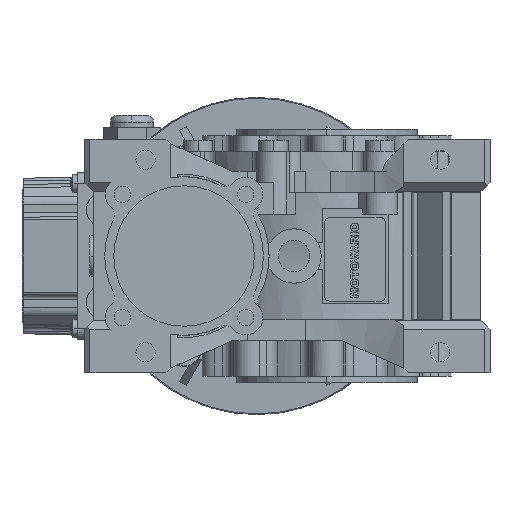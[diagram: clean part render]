
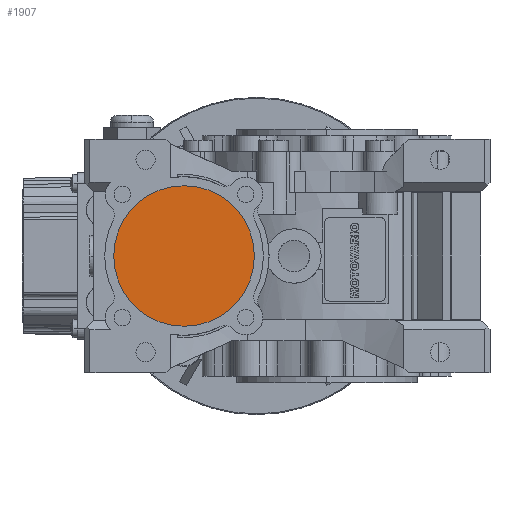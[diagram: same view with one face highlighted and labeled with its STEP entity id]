
A CAD part, left-side view. The second image highlights one B-rep face of the part: STEP entity #1907.
In plain terms, the highlighted planar face has unit normal (-1, 0, 0).
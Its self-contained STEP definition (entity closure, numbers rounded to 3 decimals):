
#1907 = ADVANCED_FACE( '', ( #7106 ), #7107, .F. );
#7106 = FACE_OUTER_BOUND( '', #15055, .T. );
#7107 = PLANE( '', #15056 );
#15055 = EDGE_LOOP( '', ( #30995, #30996 ) );
#15056 = AXIS2_PLACEMENT_3D( '', #30997, #30998, #30999 );
#30995 = ORIENTED_EDGE( '', *, *, #53086, .T. );
#30996 = ORIENTED_EDGE( '', *, *, #56562, .T. );
#30997 = CARTESIAN_POINT( '', ( -70.5, 63., -15.5 ) );
#30998 = DIRECTION( '', ( 1., 0., 0. ) );
#30999 = DIRECTION( '', ( 0., 0., 1. ) );
#53086 = EDGE_CURVE( '', #63924, #63928, #63930, .T. );
#56562 = EDGE_CURVE( '', #63928, #63924, #69696, .T. );
#63924 = VERTEX_POINT( '', #81613 );
#63928 = VERTEX_POINT( '', #81618 );
#63930 = CIRCLE( '', #81621, 31. );
#69696 = CIRCLE( '', #91982, 31. );
#81613 = CARTESIAN_POINT( '', ( -70.5, 63., -31. ) );
#81618 = CARTESIAN_POINT( '', ( -70.5, 63., 31. ) );
#81621 = AXIS2_PLACEMENT_3D( '', #110854, #110855, #110856 );
#91982 = AXIS2_PLACEMENT_3D( '', #116573, #116574, #116575 );
#110854 = CARTESIAN_POINT( '', ( -70.5, 63., 0. ) );
#110855 = DIRECTION( '', ( -1., 0., 0. ) );
#110856 = DIRECTION( '', ( 0., 0., -1. ) );
#116573 = CARTESIAN_POINT( '', ( -70.5, 63., 0. ) );
#116574 = DIRECTION( '', ( -1., 0., 0. ) );
#116575 = DIRECTION( '', ( 0., 0., -1. ) );
